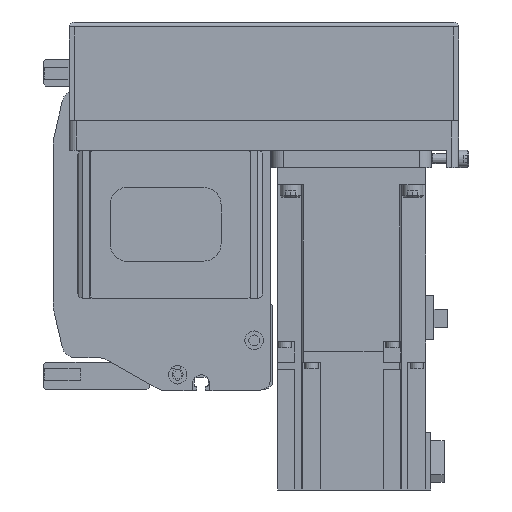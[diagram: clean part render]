
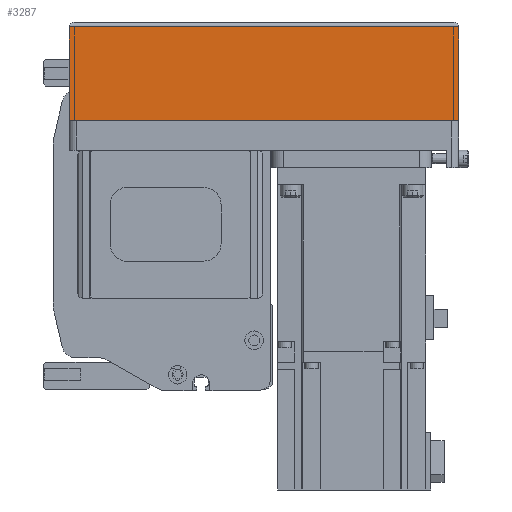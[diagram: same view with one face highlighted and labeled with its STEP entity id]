
A CAD part, left-side view. The second image highlights one B-rep face of the part: STEP entity #3287.
In plain terms, the highlighted planar face has unit normal (-1, 0, 0) as drawn and (0, -1, 0) by its records, which use the part's own axes.
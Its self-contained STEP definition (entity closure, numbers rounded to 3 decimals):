
#3287 = ADVANCED_FACE( '', ( #6910 ), #6911, .T. );
#6910 = FACE_OUTER_BOUND( '', #10600, .T. );
#6911 = PLANE( '', #10601 );
#10600 = EDGE_LOOP( '', ( #19720, #19721, #19722, #19723 ) );
#10601 = AXIS2_PLACEMENT_3D( '', #19724, #19725, #19726 );
#19720 = ORIENTED_EDGE( '', *, *, #24213, .F. );
#19721 = ORIENTED_EDGE( '', *, *, #22956, .F. );
#19722 = ORIENTED_EDGE( '', *, *, #24199, .T. );
#19723 = ORIENTED_EDGE( '', *, *, #24135, .T. );
#19724 = CARTESIAN_POINT( '', ( -158., -39., -12.1 ) );
#19725 = DIRECTION( '', ( 0., -1., 0. ) );
#19726 = DIRECTION( '', ( 0., 0., -1. ) );
#22956 = EDGE_CURVE( '', #26121, #28196, #28197, .T. );
#24135 = EDGE_CURVE( '', #27859, #29299, #29722, .T. );
#24199 = EDGE_CURVE( '', #26121, #27859, #29793, .T. );
#24213 = EDGE_CURVE( '', #28196, #29299, #29808, .T. );
#26121 = VERTEX_POINT( '', #32541 );
#27859 = VERTEX_POINT( '', #35237 );
#28196 = VERTEX_POINT( '', #35805 );
#28197 = LINE( '', #35806, #35807 );
#29299 = VERTEX_POINT( '', #37689 );
#29722 = LINE( '', #38405, #38406 );
#29793 = LINE( '', #38497, #38498 );
#29808 = LINE( '', #38520, #38521 );
#32541 = CARTESIAN_POINT( '', ( -158., -39., -12.1 ) );
#35237 = CARTESIAN_POINT( '', ( -158., -39., -50. ) );
#35805 = CARTESIAN_POINT( '', ( 0., -39., -12.1 ) );
#35806 = CARTESIAN_POINT( '', ( -158., -39., -12.1 ) );
#35807 = VECTOR( '', #41678, 1000. );
#37689 = CARTESIAN_POINT( '', ( 0., -39., -50. ) );
#38405 = CARTESIAN_POINT( '', ( -158., -39., -50. ) );
#38406 = VECTOR( '', #42856, 1000. );
#38497 = CARTESIAN_POINT( '', ( -158., -39., -12.1 ) );
#38498 = VECTOR( '', #42904, 1000. );
#38520 = CARTESIAN_POINT( '', ( 0., -39., -12.1 ) );
#38521 = VECTOR( '', #42910, 1000. );
#41678 = DIRECTION( '', ( 1., 0., 0. ) );
#42856 = DIRECTION( '', ( 1., 0., 0. ) );
#42904 = DIRECTION( '', ( 0., 0., -1. ) );
#42910 = DIRECTION( '', ( 0., 0., -1. ) );
